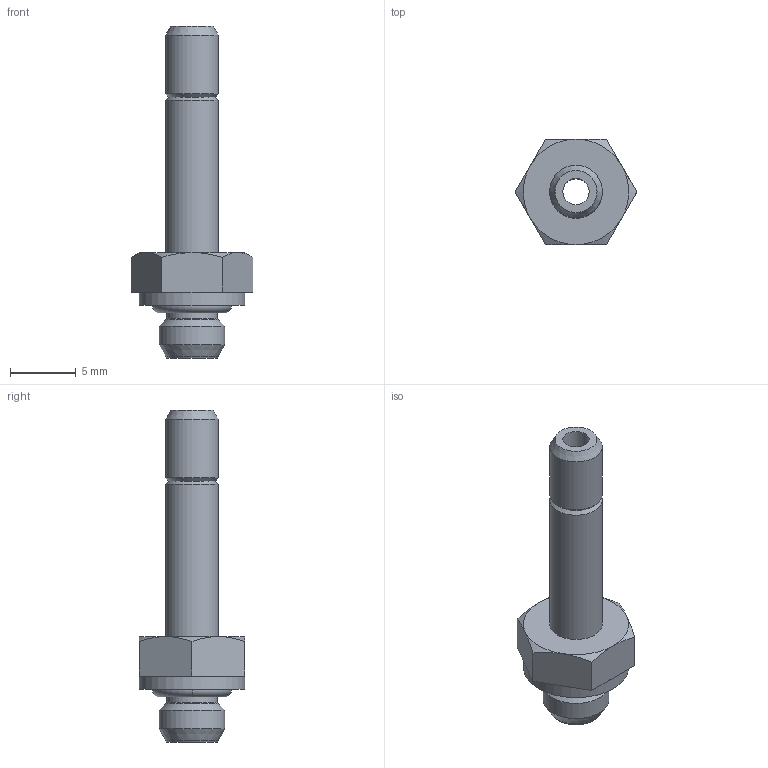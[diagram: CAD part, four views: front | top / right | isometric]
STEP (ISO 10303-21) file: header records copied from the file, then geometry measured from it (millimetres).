
FILE_DESCRIPTION(('Bauteilbeschreibung','HiCAD-Model','HiCAD-STEP-TRANSLATION','Bauteilbeschreibung'),'2;1');
FILE_NAME('B:/ABGLEICH/ZEICHNUNGEN/STEP FÜR INTERNET/STEP/IPSO 06/200601-N_IPSO_06_4_M5.STP','2012-02-28T11:07:50+00:00',('Konstrukteur'),('Konstrukteur Firma GmbH'),' HiCAD neXt 2008, Step 3.1.1401.2J ','HiCAD neXt 2008','confidential');
FILE_SCHEMA(('AUTOMOTIVE_DESIGN { 1 2 10303 214 0 1 1 1 }'));
Length unit declared in the file: millimetre
Products named in the file (5): A00601_N_IPSO_06_4_M5; A00601; A006010; DIN 13_M5; OR 4X1_2
Assembly tree (4 placements, depth 3):
  A00601_N_IPSO_06_4_M5
    A00601
    A006010
      DIN 13_M5
    OR 4X1_2
Bounding box: 9.24 x 8 x 25.2 mm (x, y, z)
Volume: 420.3 mm3; surface area: 775.8 mm2
Topology: 3 solids, 3 shells, 43 faces, 92 edges, 53 vertices
Faces by surface type: plane 16, cone 14, cylinder 8, torus 5
Full cylindrical faces by diameter (mm): 2 x1, 3.8 x1, 4 x2, 4.019 x2, 5 x1, 8 x1
Entity records: 1454 total; most frequent: DIRECTION 200, CARTESIAN_POINT 193, ORIENTED_EDGE 140, AXIS2_PLACEMENT_3D 91, EDGE_CURVE 70, COLOUR_RGB 65, PRESENTATION_STYLE_ASSIGNMENT 65, EDGE_LOOP 64
